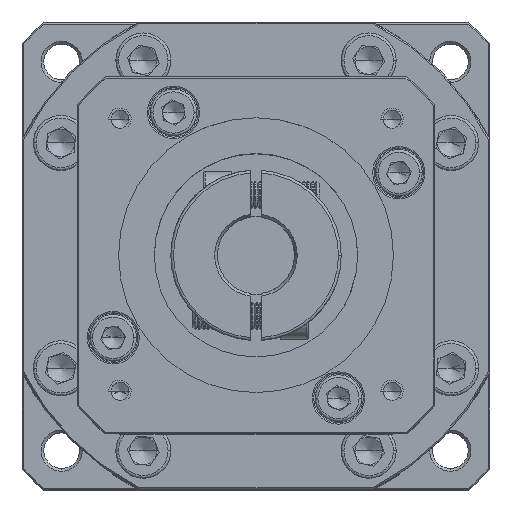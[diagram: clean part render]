
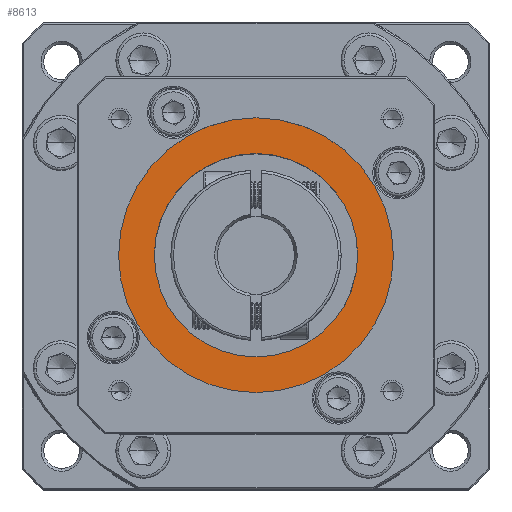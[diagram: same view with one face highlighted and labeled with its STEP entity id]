
A CAD part, top view. The second image highlights one B-rep face of the part: STEP entity #8613.
In plain terms, the highlighted planar face has unit normal (0, 0, 1).
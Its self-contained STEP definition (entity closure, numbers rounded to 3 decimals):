
#96 = DIRECTION ( 'NONE',  ( 1., 0., 0. ) ) ;
#4513 = FACE_BOUND ( 'NONE', #95652, .T. ) ;
#8613 = ADVANCED_FACE ( 'NONE', ( #110199, #4513 ), #81085, .T. ) ;
#10188 = EDGE_CURVE ( 'NONE', #85718, #68718, #59707, .T. ) ;
#11861 = VERTEX_POINT ( 'NONE', #79993 ) ;
#18205 = ORIENTED_EDGE ( 'NONE', *, *, #10188, .T. ) ;
#19755 = DIRECTION ( 'NONE',  ( 0., 0., 1. ) ) ;
#21281 = EDGE_CURVE ( 'NONE', #42799, #11861, #130899, .T. ) ;
#21600 = CARTESIAN_POINT ( 'NONE',  ( -56.095, 41.122, -10.431 ) ) ;
#26878 = DIRECTION ( 'NONE',  ( 0., 0., 1. ) ) ;
#31876 = CARTESIAN_POINT ( 'NONE',  ( -56.095, 41.122, -10.431 ) ) ;
#32379 = DIRECTION ( 'NONE',  ( 0., 0., -1. ) ) ;
#42799 = VERTEX_POINT ( 'NONE', #131118 ) ;
#43820 = EDGE_CURVE ( 'NONE', #11861, #42799, #92803, .T. ) ;
#48851 = CARTESIAN_POINT ( 'NONE',  ( -56.095, 41.122, -10.431 ) ) ;
#54625 = EDGE_LOOP ( 'NONE', ( #18205, #70382 ) ) ;
#59707 = CIRCLE ( 'NONE', #123578, 25. ) ;
#68718 = VERTEX_POINT ( 'NONE', #104524 ) ;
#70382 = ORIENTED_EDGE ( 'NONE', *, *, #106078, .T. ) ;
#73469 = DIRECTION ( 'NONE',  ( 1., 0., 0. ) ) ;
#73946 = DIRECTION ( 'NONE',  ( 0., 0., 1. ) ) ;
#76821 = ORIENTED_EDGE ( 'NONE', *, *, #21281, .T. ) ;
#79724 = AXIS2_PLACEMENT_3D ( 'NONE', #21600, #32379, #73469 ) ;
#79993 = CARTESIAN_POINT ( 'NONE',  ( -74.595, 41.122, -10.431 ) ) ;
#81085 = PLANE ( 'NONE',  #126899 ) ;
#81505 = CARTESIAN_POINT ( 'NONE',  ( -56.095, 41.122, -10.431 ) ) ;
#82474 = CARTESIAN_POINT ( 'NONE',  ( -56.095, 41.122, -10.431 ) ) ;
#85718 = VERTEX_POINT ( 'NONE', #88159 ) ;
#88159 = CARTESIAN_POINT ( 'NONE',  ( -31.095, 41.122, -10.431 ) ) ;
#92803 = CIRCLE ( 'NONE', #79724, 18.5 ) ;
#94057 = DIRECTION ( 'NONE',  ( 1., 0., 0. ) ) ;
#95652 = EDGE_LOOP ( 'NONE', ( #76821, #98643 ) ) ;
#97632 = CIRCLE ( 'NONE', #128850, 25. ) ;
#98643 = ORIENTED_EDGE ( 'NONE', *, *, #43820, .T. ) ;
#104524 = CARTESIAN_POINT ( 'NONE',  ( -81.095, 41.122, -10.431 ) ) ;
#106078 = EDGE_CURVE ( 'NONE', #68718, #85718, #97632, .T. ) ;
#109216 = DIRECTION ( 'NONE',  ( 1., 0., 0. ) ) ;
#110199 = FACE_OUTER_BOUND ( 'NONE', #54625, .T. ) ;
#110205 = DIRECTION ( 'NONE',  ( 1., 0., 0. ) ) ;
#112399 = DIRECTION ( 'NONE',  ( 0., 0., -1. ) ) ;
#118479 = AXIS2_PLACEMENT_3D ( 'NONE', #31876, #112399, #96 ) ;
#123578 = AXIS2_PLACEMENT_3D ( 'NONE', #82474, #73946, #94057 ) ;
#126899 = AXIS2_PLACEMENT_3D ( 'NONE', #81505, #19755, #110205 ) ;
#128850 = AXIS2_PLACEMENT_3D ( 'NONE', #48851, #26878, #109216 ) ;
#130899 = CIRCLE ( 'NONE', #118479, 18.5 ) ;
#131118 = CARTESIAN_POINT ( 'NONE',  ( -37.595, 41.122, -10.431 ) ) ;
